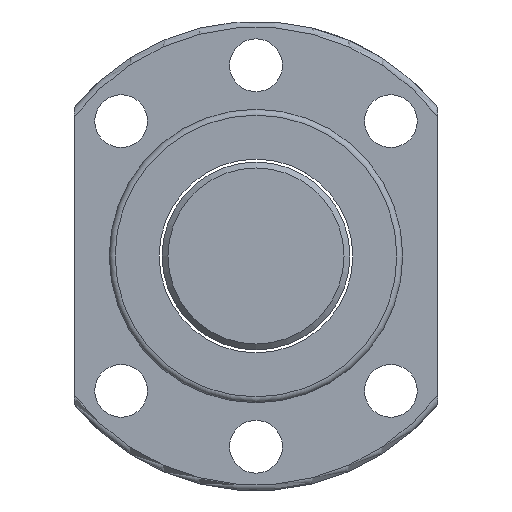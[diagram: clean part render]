
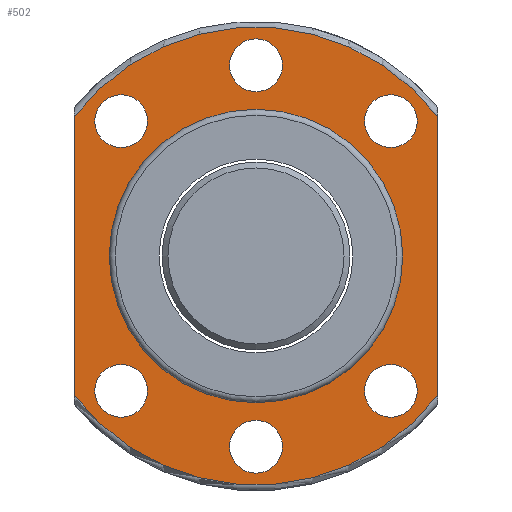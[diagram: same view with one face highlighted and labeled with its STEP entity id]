
A CAD part, left-side view. The second image highlights one B-rep face of the part: STEP entity #502.
In plain terms, the highlighted planar face has unit normal (-1, 0, 0).
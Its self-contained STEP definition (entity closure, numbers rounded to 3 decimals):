
#61=LINE('',#830,#69);
#62=LINE('',#835,#70);
#69=VECTOR('',#670,1000.);
#70=VECTOR('',#673,1000.);
#107=PLANE('',#575);
#140=ORIENTED_EDGE('',*,*,#254,.F.);
#141=ORIENTED_EDGE('',*,*,#255,.T.);
#142=ORIENTED_EDGE('',*,*,#256,.T.);
#143=ORIENTED_EDGE('',*,*,#257,.T.);
#144=ORIENTED_EDGE('',*,*,#258,.T.);
#145=ORIENTED_EDGE('',*,*,#259,.F.);
#146=ORIENTED_EDGE('',*,*,#260,.F.);
#147=ORIENTED_EDGE('',*,*,#261,.F.);
#148=ORIENTED_EDGE('',*,*,#262,.F.);
#149=ORIENTED_EDGE('',*,*,#263,.F.);
#150=ORIENTED_EDGE('',*,*,#264,.F.);
#254=EDGE_CURVE('',#313,#314,#61,.T.);
#255=EDGE_CURVE('',#313,#315,#352,.T.);
#256=EDGE_CURVE('',#315,#316,#62,.T.);
#257=EDGE_CURVE('',#316,#314,#353,.T.);
#258=EDGE_CURVE('',#317,#317,#354,.T.);
#259=EDGE_CURVE('',#318,#318,#355,.T.);
#260=EDGE_CURVE('',#319,#319,#356,.T.);
#261=EDGE_CURVE('',#320,#320,#357,.T.);
#262=EDGE_CURVE('',#321,#321,#358,.T.);
#263=EDGE_CURVE('',#322,#322,#359,.T.);
#264=EDGE_CURVE('',#323,#323,#360,.T.);
#313=VERTEX_POINT('',#831);
#314=VERTEX_POINT('',#832);
#315=VERTEX_POINT('',#834);
#316=VERTEX_POINT('',#836);
#317=VERTEX_POINT('',#839);
#318=VERTEX_POINT('',#841);
#319=VERTEX_POINT('',#843);
#320=VERTEX_POINT('',#845);
#321=VERTEX_POINT('',#847);
#322=VERTEX_POINT('',#849);
#323=VERTEX_POINT('',#851);
#352=CIRCLE('',#576,39.);
#353=CIRCLE('',#577,39.);
#354=CIRCLE('',#578,25.);
#355=CIRCLE('',#579,4.5);
#356=CIRCLE('',#580,4.5);
#357=CIRCLE('',#581,4.5);
#358=CIRCLE('',#582,4.5);
#359=CIRCLE('',#583,4.5);
#360=CIRCLE('',#584,4.5);
#387=EDGE_LOOP('',(#140,#141,#142,#143));
#388=EDGE_LOOP('',(#144));
#389=EDGE_LOOP('',(#145));
#390=EDGE_LOOP('',(#146));
#391=EDGE_LOOP('',(#147));
#392=EDGE_LOOP('',(#148));
#393=EDGE_LOOP('',(#149));
#394=EDGE_LOOP('',(#150));
#449=FACE_BOUND('',#387,.T.);
#450=FACE_BOUND('',#388,.T.);
#451=FACE_BOUND('',#389,.T.);
#452=FACE_BOUND('',#390,.T.);
#453=FACE_BOUND('',#391,.T.);
#454=FACE_BOUND('',#392,.T.);
#455=FACE_BOUND('',#393,.T.);
#456=FACE_BOUND('',#394,.T.);
#502=ADVANCED_FACE('',(#449,#450,#451,#452,#453,#454,#455,#456),#107,.T.);
#575=AXIS2_PLACEMENT_3D('',#829,#668,#669);
#576=AXIS2_PLACEMENT_3D('',#833,#671,#672);
#577=AXIS2_PLACEMENT_3D('',#837,#674,#675);
#578=AXIS2_PLACEMENT_3D('',#838,#676,#677);
#579=AXIS2_PLACEMENT_3D('',#840,#678,#679);
#580=AXIS2_PLACEMENT_3D('',#842,#680,#681);
#581=AXIS2_PLACEMENT_3D('',#844,#682,#683);
#582=AXIS2_PLACEMENT_3D('',#846,#684,#685);
#583=AXIS2_PLACEMENT_3D('',#848,#686,#687);
#584=AXIS2_PLACEMENT_3D('',#850,#688,#689);
#668=DIRECTION('',(-1.,0.,0.));
#669=DIRECTION('',(0.,0.,1.));
#670=DIRECTION('',(0.,0.,-1.));
#671=DIRECTION('',(-1.,0.,0.));
#672=DIRECTION('',(0.,0.,1.));
#673=DIRECTION('',(0.,0.,-1.));
#674=DIRECTION('',(-1.,0.,0.));
#675=DIRECTION('',(0.,0.,1.));
#676=DIRECTION('',(1.,0.,0.));
#677=DIRECTION('',(0.,0.,-1.));
#678=DIRECTION('',(-1.,0.,0.));
#679=DIRECTION('',(0.,0.,1.));
#680=DIRECTION('',(-1.,0.,0.));
#681=DIRECTION('',(0.,0.,1.));
#682=DIRECTION('',(-1.,0.,0.));
#683=DIRECTION('',(0.,0.,1.));
#684=DIRECTION('',(-1.,0.,0.));
#685=DIRECTION('',(0.,0.,1.));
#686=DIRECTION('',(-1.,0.,0.));
#687=DIRECTION('',(0.,0.,1.));
#688=DIRECTION('',(-1.,0.,0.));
#689=DIRECTION('',(0.,0.,1.));
#829=CARTESIAN_POINT('',(-27.,32.,0.));
#830=CARTESIAN_POINT('',(-27.,-31.,25.278));
#831=CARTESIAN_POINT('',(-27.,-31.,23.664));
#832=CARTESIAN_POINT('',(-27.,-31.,-23.664));
#833=CARTESIAN_POINT('',(-27.,0.,0.));
#834=CARTESIAN_POINT('',(-27.,31.,23.664));
#835=CARTESIAN_POINT('',(-27.,31.,25.278));
#836=CARTESIAN_POINT('',(-27.,31.,-23.664));
#837=CARTESIAN_POINT('',(-27.,0.,0.));
#838=CARTESIAN_POINT('',(-27.,0.,0.));
#839=CARTESIAN_POINT('',(-27.,0.,-25.));
#840=CARTESIAN_POINT('',(-27.,22.981,22.981));
#841=CARTESIAN_POINT('',(-27.,22.981,27.481));
#842=CARTESIAN_POINT('',(-27.,22.981,-22.981));
#843=CARTESIAN_POINT('',(-27.,22.981,-18.481));
#844=CARTESIAN_POINT('',(-27.,0.,32.5));
#845=CARTESIAN_POINT('',(-27.,0.,37.));
#846=CARTESIAN_POINT('',(-27.,0.,-32.5));
#847=CARTESIAN_POINT('',(-27.,0.,-28.));
#848=CARTESIAN_POINT('',(-27.,-22.981,-22.981));
#849=CARTESIAN_POINT('',(-27.,-22.981,-18.481));
#850=CARTESIAN_POINT('',(-27.,-22.981,22.981));
#851=CARTESIAN_POINT('',(-27.,-22.981,27.481));
